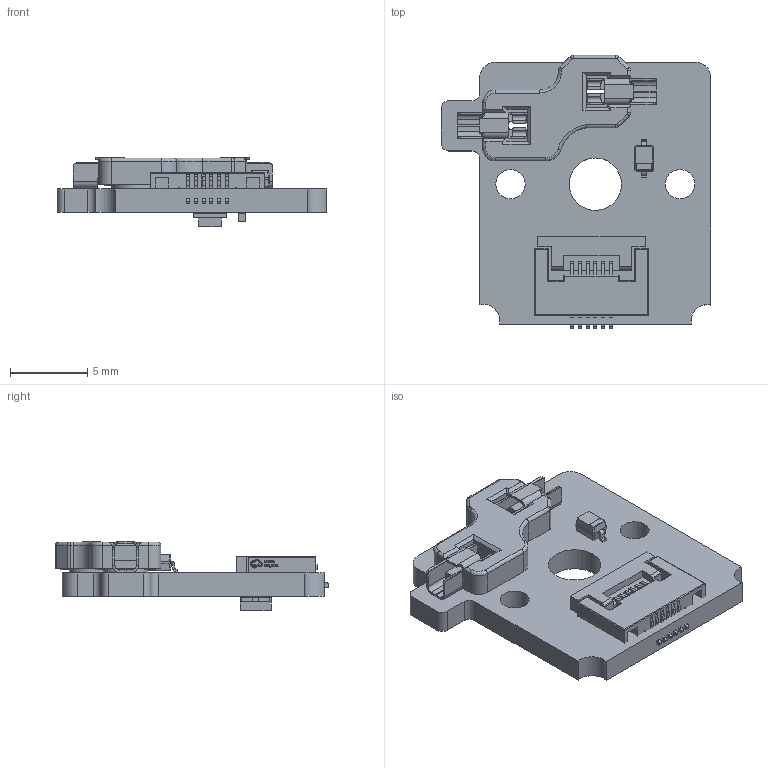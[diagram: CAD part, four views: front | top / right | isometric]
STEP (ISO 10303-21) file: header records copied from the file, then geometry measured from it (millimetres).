
FILE_DESCRIPTION(('KiCad electronic assembly'),'2;1');
FILE_NAME('FPC-assembly.step','2026-10-03T13:37:29',('Pcbnew'),('Kicad') ,'Open CASCADE STEP processor 7.9','KiCad to STEP converter','Unknown' );
FILE_SCHEMA(('AUTOMOTIVE_DESIGN { 1 0 10303 214 1 1 1 1 }'));
Length unit declared in the file: millimetre
Products named in the file (19): FPC-assembly 1; D_SOD-323; FPC-SMD_6P-P0.50_HC-FPC-0.5-6P-FH20; HS_CPG135001S30_Choc; pin; socket; LED_WS2812B-2020_2.2x2.0x0.84mm; substrate; optical encapsulation; solder terminal; IC depiction; red die depiction; green die depiction; blue die depiction; C_0402_1005Metric; AdafruitNeoKeyChocSocketBreakout_PCB
Assembly tree (19 placements, depth 3):
  FPC-assembly 1
    D_SOD-323
    FPC-SMD_6P-P0.50_HC-FPC-0.5-6P-FH20
    HS_CPG135001S30_Choc
      pin  x2
      socket
    LED_WS2812B-2020_2.2x2.0x0.84mm
      substrate
      optical encapsulation
      solder terminal
      solder terminal
      solder terminal
      solder terminal
      IC depiction
      red die depiction
      green die depiction
      blue die depiction
    C_0402_1005Metric
    AdafruitNeoKeyChocSocketBreakout_PCB
Bounding box: 17.5 x 17.73 x 4.48 mm (x, y, z)
Volume: 475.3 mm3; surface area: 1217.4 mm2
Topology: 26 solids, 26 shells, 1059 faces, 2787 edges, 1793 vertices
Faces by surface type: plane 708, cylinder 173, bspline 158, torus 10, cone 10
Full cylindrical faces by diameter (mm): 1.9 x2, 2.9 x2, 3 x1, 3.4 x1
Entity records: 35415 total; most frequent: CARTESIAN_POINT 7095, ORIENTED_EDGE 5102, DIRECTION 4280, EDGE_CURVE 2551, LINE 1952, VECTOR 1952, VERTEX_POINT 1647, AXIS2_PLACEMENT_3D 1164
